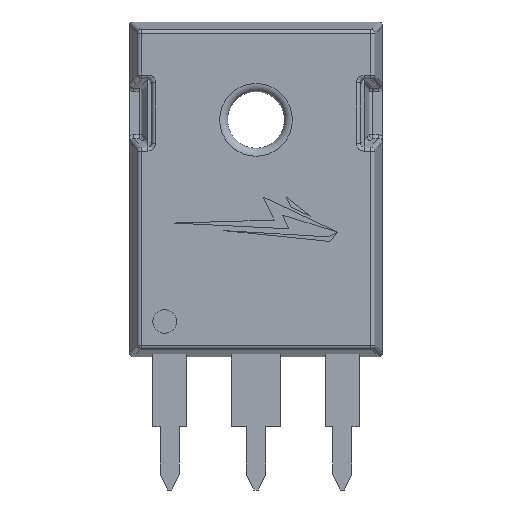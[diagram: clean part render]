
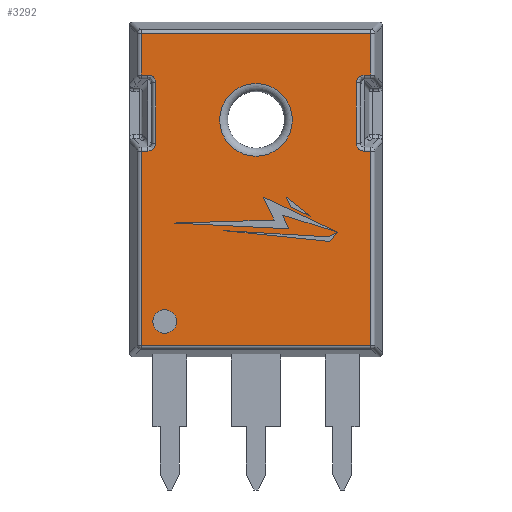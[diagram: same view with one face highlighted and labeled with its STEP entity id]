
A CAD part, front view. The second image highlights one B-rep face of the part: STEP entity #3292.
In plain terms, the highlighted planar face has unit normal (0, -1, 0).
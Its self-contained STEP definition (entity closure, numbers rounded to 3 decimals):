
#75=FACE_BOUND('',#1147,.T.);
#76=FACE_BOUND('',#1148,.T.);
#91=PLANE('',#3685);
#252=LINE('',#5268,#587);
#253=LINE('',#5270,#588);
#254=LINE('',#5272,#589);
#255=LINE('',#5274,#590);
#256=LINE('',#5276,#591);
#257=LINE('',#5278,#592);
#258=LINE('',#5280,#593);
#259=LINE('',#5290,#594);
#260=LINE('',#5300,#595);
#261=LINE('',#5302,#596);
#262=LINE('',#5304,#597);
#263=LINE('',#5306,#598);
#264=LINE('',#5308,#599);
#265=LINE('',#5318,#600);
#587=VECTOR('',#4129,1000.);
#588=VECTOR('',#4130,1000.);
#589=VECTOR('',#4131,1000.);
#590=VECTOR('',#4132,1000.);
#591=VECTOR('',#4133,1000.);
#592=VECTOR('',#4134,1000.);
#593=VECTOR('',#4135,1000.);
#594=VECTOR('',#4136,1000.);
#595=VECTOR('',#4137,1000.);
#596=VECTOR('',#4138,1000.);
#597=VECTOR('',#4139,1000.);
#598=VECTOR('',#4140,1000.);
#599=VECTOR('',#4141,1000.);
#600=VECTOR('',#4142,1000.);
#942=FACE_OUTER_BOUND('',#1146,.T.);
#1146=EDGE_LOOP('',(#2398,#2399,#2400,#2401,#2402,#2403,#2404,#2405,#2406,
#2407,#2408,#2409,#2410,#2411,#2412,#2413,#2414,#2415));
#1147=EDGE_LOOP('',(#2416,#2417));
#1148=EDGE_LOOP('',(#2418,#2419));
#1388=CIRCLE('',#3650,2.29);
#1389=CIRCLE('',#3651,2.29);
#1395=CIRCLE('',#3659,0.75);
#1396=CIRCLE('',#3660,0.75);
#1483=B_SPLINE_CURVE_WITH_KNOTS('',3,(#5282,#5283,#5284,#5285,#5286,#5287,
#5288),.UNSPECIFIED.,.F.,.F.,(4,3,4),(2.378,3.142,
3.905),.UNSPECIFIED.);
#1484=B_SPLINE_CURVE_WITH_KNOTS('',3,(#5292,#5293,#5294,#5295,#5296,#5297,
#5298),.UNSPECIFIED.,.F.,.F.,(4,3,4),(2.378,3.142,
3.905),.UNSPECIFIED.);
#1485=B_SPLINE_CURVE_WITH_KNOTS('',3,(#5310,#5311,#5312,#5313,#5314,#5315,
#5316),.UNSPECIFIED.,.F.,.F.,(4,3,4),(2.378,3.142,
3.905),.UNSPECIFIED.);
#1486=B_SPLINE_CURVE_WITH_KNOTS('',3,(#5319,#5320,#5321,#5322,#5323,#5324,
#5325),.UNSPECIFIED.,.F.,.F.,(4,3,4),(2.378,3.142,
3.905),.UNSPECIFIED.);
#1506=VERTEX_POINT('',#5066);
#1507=VERTEX_POINT('',#5067);
#1512=VERTEX_POINT('',#5082);
#1513=VERTEX_POINT('',#5084);
#1573=VERTEX_POINT('',#5266);
#1574=VERTEX_POINT('',#5267);
#1575=VERTEX_POINT('',#5269);
#1576=VERTEX_POINT('',#5271);
#1577=VERTEX_POINT('',#5273);
#1578=VERTEX_POINT('',#5275);
#1579=VERTEX_POINT('',#5277);
#1580=VERTEX_POINT('',#5279);
#1581=VERTEX_POINT('',#5281);
#1582=VERTEX_POINT('',#5289);
#1583=VERTEX_POINT('',#5291);
#1584=VERTEX_POINT('',#5299);
#1585=VERTEX_POINT('',#5301);
#1586=VERTEX_POINT('',#5303);
#1587=VERTEX_POINT('',#5305);
#1588=VERTEX_POINT('',#5307);
#1589=VERTEX_POINT('',#5309);
#1590=VERTEX_POINT('',#5317);
#1814=EDGE_CURVE('',#1506,#1507,#1388,.T.);
#1815=EDGE_CURVE('',#1507,#1506,#1389,.T.);
#1823=EDGE_CURVE('',#1512,#1513,#1395,.T.);
#1824=EDGE_CURVE('',#1513,#1512,#1396,.T.);
#1890=EDGE_CURVE('',#1573,#1574,#252,.T.);
#1891=EDGE_CURVE('',#1574,#1575,#253,.T.);
#1892=EDGE_CURVE('',#1575,#1576,#254,.T.);
#1893=EDGE_CURVE('',#1576,#1577,#255,.T.);
#1894=EDGE_CURVE('',#1577,#1578,#256,.T.);
#1895=EDGE_CURVE('',#1578,#1579,#257,.T.);
#1896=EDGE_CURVE('',#1579,#1580,#258,.T.);
#1897=EDGE_CURVE('',#1581,#1580,#1483,.T.);
#1898=EDGE_CURVE('',#1581,#1582,#259,.T.);
#1899=EDGE_CURVE('',#1583,#1582,#1484,.T.);
#1900=EDGE_CURVE('',#1583,#1584,#260,.T.);
#1901=EDGE_CURVE('',#1584,#1585,#261,.T.);
#1902=EDGE_CURVE('',#1585,#1586,#262,.T.);
#1903=EDGE_CURVE('',#1586,#1587,#263,.T.);
#1904=EDGE_CURVE('',#1587,#1588,#264,.T.);
#1905=EDGE_CURVE('',#1589,#1588,#1485,.T.);
#1906=EDGE_CURVE('',#1589,#1590,#265,.T.);
#1907=EDGE_CURVE('',#1573,#1590,#1486,.T.);
#2398=ORIENTED_EDGE('',*,*,#1890,.T.);
#2399=ORIENTED_EDGE('',*,*,#1891,.T.);
#2400=ORIENTED_EDGE('',*,*,#1892,.T.);
#2401=ORIENTED_EDGE('',*,*,#1893,.T.);
#2402=ORIENTED_EDGE('',*,*,#1894,.T.);
#2403=ORIENTED_EDGE('',*,*,#1895,.T.);
#2404=ORIENTED_EDGE('',*,*,#1896,.T.);
#2405=ORIENTED_EDGE('',*,*,#1897,.F.);
#2406=ORIENTED_EDGE('',*,*,#1898,.T.);
#2407=ORIENTED_EDGE('',*,*,#1899,.F.);
#2408=ORIENTED_EDGE('',*,*,#1900,.T.);
#2409=ORIENTED_EDGE('',*,*,#1901,.T.);
#2410=ORIENTED_EDGE('',*,*,#1902,.T.);
#2411=ORIENTED_EDGE('',*,*,#1903,.T.);
#2412=ORIENTED_EDGE('',*,*,#1904,.T.);
#2413=ORIENTED_EDGE('',*,*,#1905,.F.);
#2414=ORIENTED_EDGE('',*,*,#1906,.T.);
#2415=ORIENTED_EDGE('',*,*,#1907,.F.);
#2416=ORIENTED_EDGE('',*,*,#1814,.T.);
#2417=ORIENTED_EDGE('',*,*,#1815,.T.);
#2418=ORIENTED_EDGE('',*,*,#1824,.F.);
#2419=ORIENTED_EDGE('',*,*,#1823,.F.);
#3292=ADVANCED_FACE('',(#942,#75,#76),#91,.F.);
#3650=AXIS2_PLACEMENT_3D('',#5068,#4010,#4011);
#3651=AXIS2_PLACEMENT_3D('',#5069,#4012,#4013);
#3659=AXIS2_PLACEMENT_3D('',#5085,#4030,#4031);
#3660=AXIS2_PLACEMENT_3D('',#5086,#4032,#4033);
#3685=AXIS2_PLACEMENT_3D('',#5265,#4127,#4128);
#4010=DIRECTION('center_axis',(0.,1.,0.));
#4011=DIRECTION('ref_axis',(-1.,0.,0.));
#4012=DIRECTION('center_axis',(0.,1.,0.));
#4013=DIRECTION('ref_axis',(-1.,0.,0.));
#4030=DIRECTION('center_axis',(0.,-1.,0.));
#4031=DIRECTION('ref_axis',(1.,0.,0.));
#4032=DIRECTION('center_axis',(0.,-1.,0.));
#4033=DIRECTION('ref_axis',(1.,0.,0.));
#4127=DIRECTION('center_axis',(0.,1.,0.));
#4128=DIRECTION('ref_axis',(-1.,0.,0.));
#4129=DIRECTION('',(-1.,0.,0.));
#4130=DIRECTION('',(-1.,0.,0.));
#4131=DIRECTION('',(0.,0.,-1.));
#4132=DIRECTION('',(1.,0.,0.));
#4133=DIRECTION('',(0.,0.,1.));
#4134=DIRECTION('',(-1.,0.,0.));
#4135=DIRECTION('',(-1.,0.,0.));
#4136=DIRECTION('',(0.,0.,1.));
#4137=DIRECTION('',(1.,0.,0.));
#4138=DIRECTION('',(0.,0.,1.));
#4139=DIRECTION('',(-1.,0.,0.));
#4140=DIRECTION('',(0.,0.,-1.));
#4141=DIRECTION('',(1.,0.,0.));
#4142=DIRECTION('',(0.,0.,-1.));
#5066=CARTESIAN_POINT('',(-2.29,-2.51,14.93));
#5067=CARTESIAN_POINT('',(2.29,-2.51,14.93));
#5068=CARTESIAN_POINT('Origin',(0.,-2.51,14.93));
#5069=CARTESIAN_POINT('Origin',(0.,-2.51,14.93));
#5082=CARTESIAN_POINT('',(-6.499,-2.51,2.221));
#5084=CARTESIAN_POINT('',(-4.999,-2.51,2.221));
#5085=CARTESIAN_POINT('Origin',(-5.749,-2.51,2.221));
#5086=CARTESIAN_POINT('Origin',(-5.749,-2.51,2.221));
#5265=CARTESIAN_POINT('Origin',(-7.97,-2.51,21.1));
#5266=CARTESIAN_POINT('',(-6.812,-2.51,12.963));
#5267=CARTESIAN_POINT('',(-7.2,-2.51,12.962));
#5268=CARTESIAN_POINT('',(-7.97,-2.51,12.963));
#5269=CARTESIAN_POINT('',(-7.249,-2.51,12.962));
#5270=CARTESIAN_POINT('',(-7.459,-2.51,12.962));
#5271=CARTESIAN_POINT('',(-7.249,-2.51,0.721));
#5272=CARTESIAN_POINT('',(-7.249,-2.51,0.511));
#5273=CARTESIAN_POINT('',(7.249,-2.51,0.721));
#5274=CARTESIAN_POINT('',(7.459,-2.51,0.721));
#5275=CARTESIAN_POINT('',(7.249,-2.51,12.962));
#5276=CARTESIAN_POINT('',(7.249,-2.51,13.165));
#5277=CARTESIAN_POINT('',(7.2,-2.51,12.962));
#5278=CARTESIAN_POINT('',(-7.97,-2.51,12.962));
#5279=CARTESIAN_POINT('',(6.812,-2.51,12.963));
#5280=CARTESIAN_POINT('',(-7.97,-2.51,12.963));
#5281=CARTESIAN_POINT('',(6.323,-2.51,13.452));
#5282=CARTESIAN_POINT('Ctrl Pts',(6.323,-2.51,13.452));
#5283=CARTESIAN_POINT('Ctrl Pts',(6.323,-2.51,13.321));
#5284=CARTESIAN_POINT('Ctrl Pts',(6.375,-2.51,13.195));
#5285=CARTESIAN_POINT('Ctrl Pts',(6.465,-2.51,13.105));
#5286=CARTESIAN_POINT('Ctrl Pts',(6.555,-2.51,13.015));
#5287=CARTESIAN_POINT('Ctrl Pts',(6.681,-2.51,12.963));
#5288=CARTESIAN_POINT('Ctrl Pts',(6.812,-2.51,12.963));
#5289=CARTESIAN_POINT('',(6.323,-2.51,17.268));
#5290=CARTESIAN_POINT('',(6.323,-2.51,21.1));
#5291=CARTESIAN_POINT('',(6.812,-2.51,17.757));
#5292=CARTESIAN_POINT('Ctrl Pts',(6.812,-2.51,17.757));
#5293=CARTESIAN_POINT('Ctrl Pts',(6.681,-2.51,17.757));
#5294=CARTESIAN_POINT('Ctrl Pts',(6.555,-2.51,17.705));
#5295=CARTESIAN_POINT('Ctrl Pts',(6.465,-2.51,17.615));
#5296=CARTESIAN_POINT('Ctrl Pts',(6.375,-2.51,17.525));
#5297=CARTESIAN_POINT('Ctrl Pts',(6.323,-2.51,17.399));
#5298=CARTESIAN_POINT('Ctrl Pts',(6.323,-2.51,17.268));
#5299=CARTESIAN_POINT('',(7.249,-2.51,17.757));
#5300=CARTESIAN_POINT('',(-7.97,-2.51,17.757));
#5301=CARTESIAN_POINT('',(7.249,-2.51,20.379));
#5302=CARTESIAN_POINT('',(7.249,-2.51,20.589));
#5303=CARTESIAN_POINT('',(-7.249,-2.51,20.379));
#5304=CARTESIAN_POINT('',(-7.459,-2.51,20.379));
#5305=CARTESIAN_POINT('',(-7.249,-2.51,17.757));
#5306=CARTESIAN_POINT('',(-7.249,-2.51,17.555));
#5307=CARTESIAN_POINT('',(-6.812,-2.51,17.757));
#5308=CARTESIAN_POINT('',(-7.97,-2.51,17.757));
#5309=CARTESIAN_POINT('',(-6.323,-2.51,17.268));
#5310=CARTESIAN_POINT('Ctrl Pts',(-6.323,-2.51,17.268));
#5311=CARTESIAN_POINT('Ctrl Pts',(-6.323,-2.51,17.399));
#5312=CARTESIAN_POINT('Ctrl Pts',(-6.375,-2.51,17.525));
#5313=CARTESIAN_POINT('Ctrl Pts',(-6.465,-2.51,17.615));
#5314=CARTESIAN_POINT('Ctrl Pts',(-6.555,-2.51,17.705));
#5315=CARTESIAN_POINT('Ctrl Pts',(-6.681,-2.51,17.757));
#5316=CARTESIAN_POINT('Ctrl Pts',(-6.812,-2.51,17.757));
#5317=CARTESIAN_POINT('',(-6.323,-2.51,13.452));
#5318=CARTESIAN_POINT('',(-6.323,-2.51,21.1));
#5319=CARTESIAN_POINT('Ctrl Pts',(-6.812,-2.51,12.963));
#5320=CARTESIAN_POINT('Ctrl Pts',(-6.681,-2.51,12.963));
#5321=CARTESIAN_POINT('Ctrl Pts',(-6.555,-2.51,13.015));
#5322=CARTESIAN_POINT('Ctrl Pts',(-6.465,-2.51,13.105));
#5323=CARTESIAN_POINT('Ctrl Pts',(-6.375,-2.51,13.195));
#5324=CARTESIAN_POINT('Ctrl Pts',(-6.323,-2.51,13.321));
#5325=CARTESIAN_POINT('Ctrl Pts',(-6.323,-2.51,13.452));
